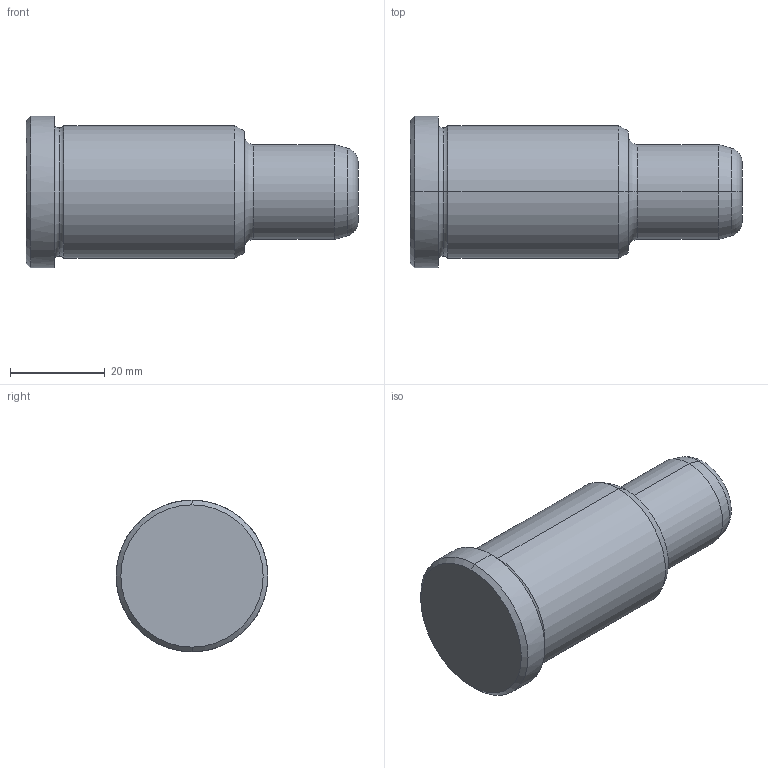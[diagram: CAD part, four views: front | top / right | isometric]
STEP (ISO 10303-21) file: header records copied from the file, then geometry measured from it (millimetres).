
FILE_DESCRIPTION(('CATIA V5 STEP Exchange'),'2;1');
FILE_NAME('C:\Users\Utente\Desktop\IO LAVORO\3D X SITO CF\X SITO\PLASTICA\351\351-20X46X70.stp','2021-08-27T13:00:03+00:00',('none'),('none'),'CATIA Version 5 Release 20 GA (IN-10)','CATIA V5 STEP AP203','none');
FILE_SCHEMA(('CONFIG_CONTROL_DESIGN'));
Length unit declared in the file: millimetre
Products named in the file (1): 351-20X46X70
Bounding box: 70 x 32 x 32 mm (x, y, z)
Volume: 36589.2 mm3; surface area: 6941.9 mm2
Topology: 1 solids, 1 shells, 24 faces, 70 edges, 50 vertices
Faces by surface type: torus 8, cone 6, cylinder 6, plane 4
Entity records: 932 total; most frequent: CARTESIAN_POINT 257, ORIENTED_EDGE 140, DIRECTION 110, AXIS2_PLACEMENT_3D 75, EDGE_CURVE 70, CIRCLE 50, VERTEX_POINT 50, EDGE_LOOP 26
